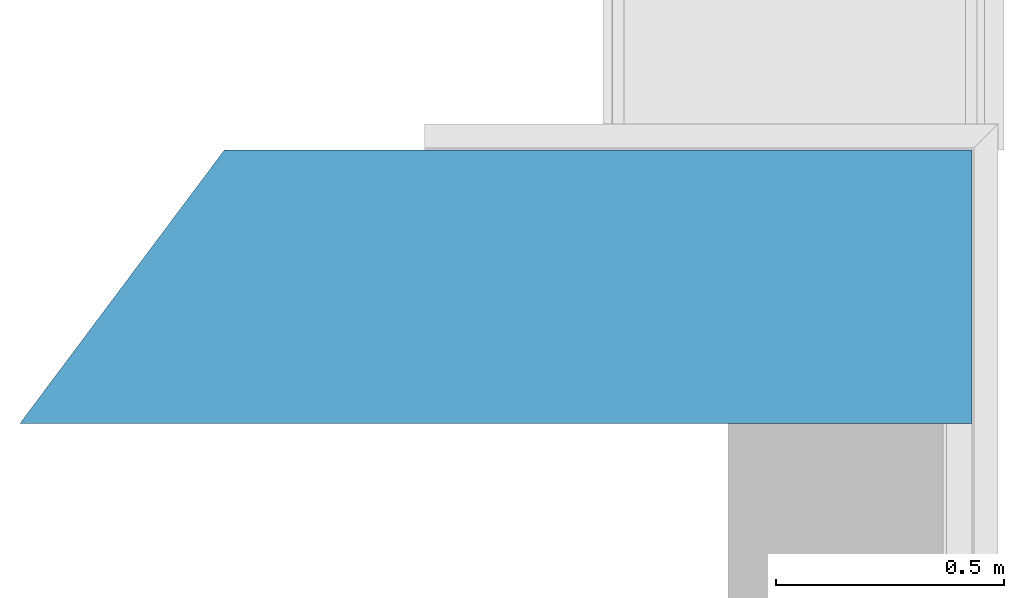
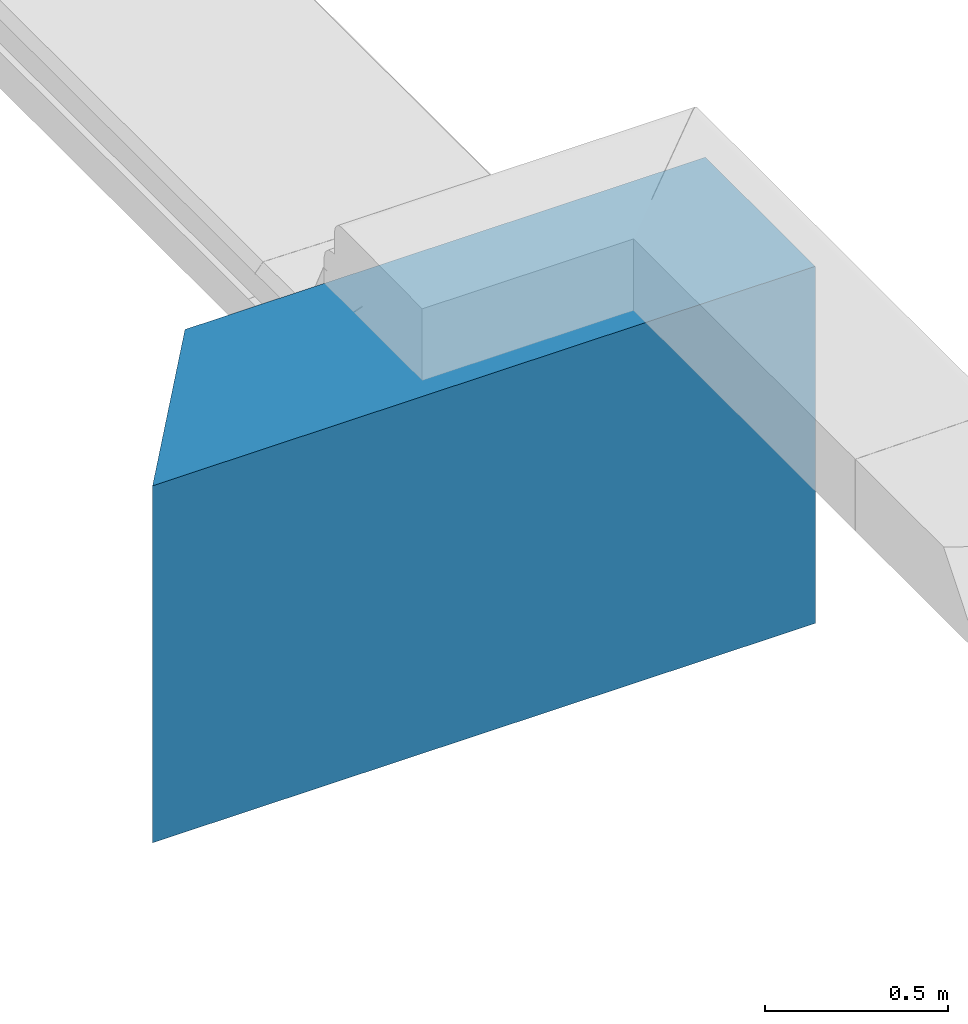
# One storey, incomplete: 1 wall.
"""IFC2X3 building model written with IfcOpenShell, lengths in millimetres."""

import ifcopenshell
import ifcopenshell.guid

model = None  # the IFC model being written
_history = None  # IfcOwnerHistory: only IFC2X3 demands one
_inside = {}  # id of a spatial element -> (the spatial element, [elements in it])
_under = {}  # id of a project, library or spatial element -> (it, [spatial elements below it])
_declared = {}  # id of a project -> (the project, [libraries it declares])
_typed = {}  # id of a type object -> (the type object, [elements of that type])
_made_of = {}  # id of a material, layer set ... -> (it, [elements and type objects made of it])


def new_model(schema):
    """Start an empty IFC model of exactly this schema.

    Asked for "IFC4X3", IfcOpenShell would pick the latest addendum, in which some entities
    have other attributes; the version numbers below select the first issue.
    IFC2X3 requires an IfcOwnerHistory on every rooted entity: one is made here for all.
    """
    global model, _history
    if schema == "IFC4X3":
        model = ifcopenshell.file(schema_version=(4, 3, 0, 0))
    else:
        model = ifcopenshell.file(schema=schema)
    _inside.clear()
    _under.clear()
    _declared.clear()
    _typed.clear()
    _made_of.clear()
    _history = None
    if model.schema == "IFC2X3":
        org = make("IfcOrganization", Name="unknown")
        user = make(
            "IfcPersonAndOrganization",
            ThePerson=make("IfcPerson", FamilyName="unknown"),
            TheOrganization=org,
        )
        app = make(
            "IfcApplication",
            ApplicationDeveloper=org,
            Version="unknown",
            ApplicationFullName="unknown",
            ApplicationIdentifier="unknown",
        )
        _history = make(
            "IfcOwnerHistory",
            OwningUser=user,
            OwningApplication=app,
            ChangeAction="ADDED",
            CreationDate=0,
        )
    return model


def make(cls, **values):
    """One entity of the class cls with the attributes given. An attribute that is None is left unset."""
    return model.create_entity(
        cls, **{name: value for name, value in values.items() if value is not None}
    )


def entity(cls, *values):
    """Any entity or typed value of the class cls, its attributes in the order of the schema. None: left unset."""
    e = model.create_entity(cls)
    for i, value in enumerate(values):
        if value is not None:
            e[i] = value
    return e


def rooted(cls, **values):
    """An entity with a GlobalId (a new one), such as an element, a storey or a relation."""
    return make(cls, GlobalId=ifcopenshell.guid.new(), OwnerHistory=_history, **values)


def si_unit(unit_type, name, prefix=None):
    """IfcSIUnit, for example si_unit("LENGTHUNIT", "METRE", prefix="MILLI")."""
    return make("IfcSIUnit", UnitType=unit_type, Prefix=prefix, Name=name)


def converted_unit(unit_type, name, factor, base, dimensions=None, offset=None):
    """IfcConversionBasedUnit, such as the inch: factor (a typed value) times the base unit."""
    return make(
        "IfcConversionBasedUnit"
        if offset is None
        else "IfcConversionBasedUnitWithOffset",
        ConversionOffset=offset,
        Dimensions=None
        if dimensions is None
        else entity("IfcDimensionalExponents", *dimensions),
        UnitType=unit_type,
        Name=name,
        ConversionFactor=make(
            "IfcMeasureWithUnit", ValueComponent=factor, UnitComponent=base
        ),
    )


def derived_unit(unit_type, elements):
    """IfcDerivedUnit: a product of units, each with its exponent."""
    return make(
        "IfcDerivedUnit",
        Elements=[
            make("IfcDerivedUnitElement", Unit=unit, Exponent=power)
            for unit, power in elements
        ],
        UnitType=unit_type,
    )


def assignment(units):
    """IfcUnitAssignment: the units of a project."""
    return None if units is None else make("IfcUnitAssignment", Units=units)


def point(xyz):
    """IfcCartesianPoint."""
    return None if xyz is None else make("IfcCartesianPoint", Coordinates=xyz)


def direction(xyz):
    """IfcDirection."""
    return None if xyz is None else make("IfcDirection", DirectionRatios=xyz)


def frame(location, z_axis=None, x_axis=None):
    """IfcAxis2Placement3D, a coordinate frame: its origin and axes. An axis left out is left unset."""
    return make(
        "IfcAxis2Placement3D",
        Location=point(location),
        Axis=direction(z_axis),
        RefDirection=direction(x_axis),
    )


def origin():
    """The frame at (0, 0, 0) with its axes left unset."""
    return frame((0.0, 0.0, 0.0))


def place(relative_to, where):
    """IfcLocalPlacement: puts the frame where relative to a parent placement (None: the world)."""
    return make(
        "IfcLocalPlacement", PlacementRelTo=relative_to, RelativePlacement=where
    )


def context(
    kind, dimensions, precision=None, world=None, true_north=None, identifier=None
):
    """IfcGeometricRepresentationContext, for example the 3D "Model" context."""
    return make(
        "IfcGeometricRepresentationContext",
        ContextIdentifier=identifier,
        ContextType=kind,
        CoordinateSpaceDimension=dimensions,
        Precision=precision,
        WorldCoordinateSystem=world,
        TrueNorth=true_north,
    )


def subcontext(parent, identifier, kind, view, scale=None):
    """IfcGeometricRepresentationSubContext, for example "Body" below "Model"."""
    return make(
        "IfcGeometricRepresentationSubContext",
        ContextIdentifier=identifier,
        ContextType=kind,
        ParentContext=parent,
        TargetScale=scale,
        TargetView=view,
    )


def project(units=None, contexts=None):
    """IfcProject with its units and contexts."""
    return rooted(
        "IfcProject",
        Name="project",
        RepresentationContexts=contexts,
        UnitsInContext=assignment(units),
    )


def spatial(cls, under=None, at=None, **own):
    """A site, building, storey or space (cls), placed at a placement, below another one or the project."""
    s = rooted(cls, ObjectPlacement=at, **own)
    if under is not None:
        _under.setdefault(under.id(), (under, []))[1].append(s)
    return s


def polyline(points):
    """IfcPolyline through the points."""
    return make("IfcPolyline", Points=[point(p) for p in points])


def outline(outer, holes=None, kind="AREA"):
    """IfcArbitraryClosedProfileDef: a profile drawn as a closed curve; with holes, ...WithVoids."""
    if holes is None:
        return make("IfcArbitraryClosedProfileDef", ProfileType=kind, OuterCurve=outer)
    return make(
        "IfcArbitraryProfileDefWithVoids",
        ProfileType=kind,
        OuterCurve=outer,
        InnerCurves=holes,
    )


def extrude(swept, where, along, depth):
    """IfcExtrudedAreaSolid: the profile swept, set in the frame where, extruded along a direction by depth."""
    return make(
        "IfcExtrudedAreaSolid",
        SweptArea=swept,
        Position=where,
        ExtrudedDirection=direction(along),
        Depth=depth,
    )


def shape(context_of_items, identifier, shape_type, items):
    """IfcShapeRepresentation: the items that make up one representation, for example the "Body"."""
    return make(
        "IfcShapeRepresentation",
        ContextOfItems=context_of_items,
        RepresentationIdentifier=identifier,
        RepresentationType=shape_type,
        Items=items,
    )


def material(Name=None, Category=None):
    """IfcMaterial."""
    return make("IfcMaterial", Name=Name, Category=Category)


def layer(
    of_material, thickness, ventilated=None, Name=None, Category=None, Priority=None
):
    """IfcMaterialLayer: one layer of a wall or slab, of a material (None: an air gap)."""
    return make(
        "IfcMaterialLayer",
        Material=of_material,
        LayerThickness=thickness,
        IsVentilated=ventilated,
        Name=Name,
        Category=Category,
        Priority=Priority,
    )


def layer_set(layers, Name=None):
    """IfcMaterialLayerSet."""
    return make("IfcMaterialLayerSet", MaterialLayers=layers, LayerSetName=Name)


def layer_usage(for_layer_set, set_direction, sense, offset, extent=None):
    """IfcMaterialLayerSetUsage: how a layer set lies in its element."""
    return make(
        "IfcMaterialLayerSetUsage",
        ForLayerSet=for_layer_set,
        LayerSetDirection=set_direction,
        DirectionSense=sense,
        OffsetFromReferenceLine=offset,
        ReferenceExtent=extent,
    )


def made_of(thing, what):
    """Note that an element or type object is made of a material, layer set ...; save() writes the relation."""
    if what is not None:
        _made_of.setdefault(what.id(), (what, []))[1].append(thing)
    return thing


def type_object(cls, material=None, **own):
    """A type object (cls), such as IfcWallType, which elements share."""
    return made_of(rooted(cls, **own), material)


def element(
    cls,
    number,
    at=None,
    inside=None,
    cuts=None,
    type_object=None,
    material=None,
    context=None,
    identifier="Body",
    shape_type=None,
    held_by="IfcProductDefinitionShape",
    body=None,
    shapes=None,
    **own,
):
    """One element of the class cls, such as IfcWall. Its Tag is "e" and its number.

    at: its placement. inside: the storey or other place that contains it. cuts: it is an
    opening in that element (IfcRelVoidsElement). A single representation is given by context,
    identifier, shape_type and body (its items); several are given by shapes. held_by: the class
    of the entity that holds the representations. save() writes the other relations.
    """
    e = rooted(cls, Tag="e%d" % number, ObjectPlacement=at, **own)
    if body is not None:
        shapes = [shape(context, identifier, shape_type, body)]
    if shapes is not None:
        e.Representation = make(held_by, Representations=shapes)
    if inside is not None:
        _inside.setdefault(inside.id(), (inside, []))[1].append(e)
    if cuts is not None:
        rooted(
            "IfcRelVoidsElement", RelatingBuildingElement=cuts, RelatedOpeningElement=e
        )
    if type_object is not None:
        _typed.setdefault(type_object.id(), (type_object, []))[1].append(e)
    return made_of(e, material)


def aggregate(whole, parts):
    """IfcRelAggregates: a whole, such as a stair, and the parts it consists of."""
    return rooted("IfcRelAggregates", RelatingObject=whole, RelatedObjects=parts)


def save(model, path):
    """Write the relations noted so far, then the file.

    IfcRelAggregates (storeys below a building ...), IfcRelContainedInSpatialStructure (elements
    in a storey), IfcRelDefinesByType, IfcRelAssociatesMaterial and IfcRelDeclares: one each for
    every whole, place, type object, material and project.
    """
    for whole, parts in _under.values():
        aggregate(whole, parts)
    for where, things in _inside.values():
        rooted(
            "IfcRelContainedInSpatialStructure",
            RelatedElements=things,
            RelatingStructure=where,
        )
    for kind, things in _typed.values():
        rooted("IfcRelDefinesByType", RelatedObjects=things, RelatingType=kind)
    for what, things in _made_of.values():
        rooted("IfcRelAssociatesMaterial", RelatedObjects=things, RelatingMaterial=what)
    for by, libraries in _declared.values():
        rooted("IfcRelDeclares", RelatingContext=by, RelatedDefinitions=libraries)
    model.write(path)


model = new_model("IFC2X3")

# Units and contexts
model_context = context("Model", 3, precision=0.01, world=origin(), true_north=direction((6.123031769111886e-17, 1.0)))
body_context = subcontext(model_context, "Body", "Model", "MODEL_VIEW")
ifc_project = project(units=[si_unit("LENGTHUNIT", "METRE", prefix="MILLI"), si_unit("AREAUNIT", "SQUARE_METRE"), si_unit("VOLUMEUNIT", "CUBIC_METRE"), converted_unit("PLANEANGLEUNIT", "DEGREE", entity("IfcPlaneAngleMeasure", 0.017453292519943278), si_unit("PLANEANGLEUNIT", "RADIAN"), dimensions=[0, 0, 0, 0, 0, 0, 0]), si_unit("MASSUNIT", "GRAM", prefix="KILO"), derived_unit("MASSDENSITYUNIT", [(si_unit("MASSUNIT", "GRAM", prefix="KILO"), 1), (si_unit("LENGTHUNIT", "METRE"), -3)]), derived_unit("IONCONCENTRATIONUNIT", [(si_unit("MASSUNIT", "GRAM", prefix="KILO"), 1), (si_unit("LENGTHUNIT", "METRE"), -3)]), derived_unit("MOMENTOFINERTIAUNIT", [(si_unit("LENGTHUNIT", "METRE"), 4)]), si_unit("TIMEUNIT", "SECOND"), si_unit("FREQUENCYUNIT", "HERTZ"), si_unit("THERMODYNAMICTEMPERATUREUNIT", "DEGREE_CELSIUS"), derived_unit("THERMALTRANSMITTANCEUNIT", [(si_unit("MASSUNIT", "GRAM", prefix="KILO"), 1), (si_unit("THERMODYNAMICTEMPERATUREUNIT", "KELVIN"), -1), (si_unit("TIMEUNIT", "SECOND"), -3)]), derived_unit("THERMALCONDUCTANCEUNIT", [(si_unit("MASSUNIT", "GRAM", prefix="KILO"), 1), (si_unit("THERMODYNAMICTEMPERATUREUNIT", "KELVIN"), -1), (si_unit("TIMEUNIT", "SECOND"), -3), (si_unit("LENGTHUNIT", "METRE"), 1)]), derived_unit("VOLUMETRICFLOWRATEUNIT", [(si_unit("LENGTHUNIT", "METRE", prefix="DECI"), 3), (si_unit("TIMEUNIT", "SECOND"), -1)]), derived_unit("MASSFLOWRATEUNIT", [(si_unit("MASSUNIT", "GRAM", prefix="KILO"), 1), (si_unit("TIMEUNIT", "SECOND"), -1)]), derived_unit("ROTATIONALFREQUENCYUNIT", [(si_unit("TIMEUNIT", "SECOND"), -1)]), si_unit("ELECTRICCURRENTUNIT", "AMPERE"), si_unit("ELECTRICVOLTAGEUNIT", "VOLT"), si_unit("POWERUNIT", "WATT"), si_unit("FORCEUNIT", "NEWTON", prefix="KILO"), si_unit("ILLUMINANCEUNIT", "LUX"), si_unit("LUMINOUSFLUXUNIT", "LUMEN"), si_unit("LUMINOUSINTENSITYUNIT", "CANDELA"), si_unit("ENERGYUNIT", "JOULE"), derived_unit("USERDEFINED", [(si_unit("MASSUNIT", "GRAM", prefix="KILO"), -1), (si_unit("LENGTHUNIT", "METRE"), -2), (si_unit("TIMEUNIT", "SECOND"), 3), (si_unit("LUMINOUSFLUXUNIT", "LUMEN"), 1)]), derived_unit("USERDEFINED", [(si_unit("MASSUNIT", "GRAM", prefix="KILO"), 1), (si_unit("TIMEUNIT", "SECOND"), -3), (si_unit("LENGTHUNIT", "METRE"), 3), (si_unit("ELECTRICCURRENTUNIT", "AMPERE"), -2)]), derived_unit("SOUNDPOWERUNIT", [(si_unit("MASSUNIT", "GRAM", prefix="KILO"), 1), (si_unit("TIMEUNIT", "SECOND"), -3), (si_unit("LENGTHUNIT", "METRE"), 2)]), derived_unit("SOUNDPRESSUREUNIT", [(si_unit("MASSUNIT", "GRAM", prefix="KILO"), 1), (si_unit("LENGTHUNIT", "METRE"), -1), (si_unit("TIMEUNIT", "SECOND"), -2)]), derived_unit("LINEARVELOCITYUNIT", [(si_unit("LENGTHUNIT", "METRE"), 1), (si_unit("TIMEUNIT", "SECOND"), -1)]), si_unit("PRESSUREUNIT", "PASCAL"), derived_unit("USERDEFINED", [(si_unit("MASSUNIT", "GRAM", prefix="KILO"), 1), (si_unit("LENGTHUNIT", "METRE"), -2), (si_unit("TIMEUNIT", "SECOND"), -2)]), derived_unit("LINEARFORCEUNIT", [(si_unit("MASSUNIT", "GRAM", prefix="KILO"), 1), (si_unit("TIMEUNIT", "SECOND"), -2)]), derived_unit("PLANARFORCEUNIT", [(si_unit("MASSUNIT", "GRAM", prefix="KILO"), 1), (si_unit("LENGTHUNIT", "METRE"), -1), (si_unit("TIMEUNIT", "SECOND"), -2)]), derived_unit("SPECIFICHEATCAPACITYUNIT", [(si_unit("THERMODYNAMICTEMPERATUREUNIT", "KELVIN"), -1), (si_unit("LENGTHUNIT", "METRE"), 2), (si_unit("TIMEUNIT", "SECOND"), -2)]), derived_unit("HEATFLUXDENSITYUNIT", [(si_unit("MASSUNIT", "GRAM", prefix="KILO"), 1), (si_unit("TIMEUNIT", "SECOND"), -3)]), derived_unit("HEATINGVALUEUNIT", [(si_unit("LENGTHUNIT", "METRE"), 2), (si_unit("TIMEUNIT", "SECOND"), -2)]), derived_unit("VAPORPERMEABILITYUNIT", [(si_unit("LENGTHUNIT", "METRE"), -1), (si_unit("TIMEUNIT", "SECOND"), 1)]), derived_unit("DYNAMICVISCOSITYUNIT", [(si_unit("MASSUNIT", "GRAM", prefix="KILO"), 1), (si_unit("TIMEUNIT", "SECOND"), -1), (si_unit("LENGTHUNIT", "METRE"), -1)]), derived_unit("THERMALEXPANSIONCOEFFICIENTUNIT", [(si_unit("THERMODYNAMICTEMPERATUREUNIT", "KELVIN"), -1)]), derived_unit("MODULUSOFELASTICITYUNIT", [(si_unit("MASSUNIT", "GRAM", prefix="KILO"), 1), (si_unit("LENGTHUNIT", "METRE"), -1), (si_unit("TIMEUNIT", "SECOND"), -2)]), derived_unit("ISOTHERMALMOISTURECAPACITYUNIT", [(si_unit("MASSUNIT", "GRAM", prefix="KILO"), -1), (si_unit("LENGTHUNIT", "METRE"), 3)]), derived_unit("MOISTUREDIFFUSIVITYUNIT", [(si_unit("TIMEUNIT", "SECOND"), -1), (si_unit("LENGTHUNIT", "METRE"), 2)]), derived_unit("MASSPERLENGTHUNIT", [(si_unit("MASSUNIT", "GRAM", prefix="KILO"), 1), (si_unit("LENGTHUNIT", "METRE"), -1)]), derived_unit("THERMALRESISTANCEUNIT", [(si_unit("MASSUNIT", "GRAM", prefix="KILO"), -1), (si_unit("TIMEUNIT", "SECOND"), 3), (si_unit("THERMODYNAMICTEMPERATUREUNIT", "KELVIN"), 1)]), derived_unit("ACCELERATIONUNIT", [(si_unit("LENGTHUNIT", "METRE"), 1), (si_unit("TIMEUNIT", "SECOND"), -2)]), derived_unit("ANGULARVELOCITYUNIT", [(si_unit("TIMEUNIT", "SECOND"), -1), (si_unit("PLANEANGLEUNIT", "RADIAN"), 1)]), derived_unit("LINEARSTIFFNESSUNIT", [(si_unit("MASSUNIT", "GRAM", prefix="KILO"), 1), (si_unit("TIMEUNIT", "SECOND"), -2)]), derived_unit("WARPINGCONSTANTUNIT", [(si_unit("LENGTHUNIT", "METRE"), 6)]), derived_unit("LINEARMOMENTUNIT", [(si_unit("MASSUNIT", "GRAM", prefix="KILO"), 1), (si_unit("LENGTHUNIT", "METRE"), 1), (si_unit("TIMEUNIT", "SECOND"), -2)]), derived_unit("TORQUEUNIT", [(si_unit("MASSUNIT", "GRAM", prefix="KILO"), 1), (si_unit("LENGTHUNIT", "METRE"), 2), (si_unit("TIMEUNIT", "SECOND"), -2)])], contexts=[model_context])

# Site, building, storey
site_placement = place(None, origin())
site = spatial("IfcSite", under=ifc_project, at=site_placement, Name="Default", CompositionType="ELEMENT")
building_placement = place(site_placement, origin())
building = spatial("IfcBuilding", under=site, at=building_placement, Name="Eesti Rahvusraamatukogu hoone renoveerimise projekteerimistööd", CompositionType="ELEMENT")
storey_placement = place(building_placement, frame((0.0, 0.0, 6100.0)))
storey = spatial("IfcBuildingStorey", under=building, at=storey_placement, Name="E-korpus 3. korrus", CompositionType="ELEMENT", Elevation=6100.0)

# Wall
ifc_material = material(Name="ol. olev materjal")
ifc_layer = layer(ifc_material, 600.0)
ifc_layer_set = layer_set([ifc_layer], Name="Basic Wall:ol. olev - 600mm")
ifc_layer_usage = layer_usage(ifc_layer_set, "AXIS2", "NEGATIVE", 300.0)
wall_type = type_object("IfcWallType", Name="Basic Wall:ol. olev - 600mm", PredefinedType="STANDARD", material=ifc_layer_set)
wall_placement = place(storey_placement, frame((-48580.0, 12515.0, 0.0), z_axis=(0.0, 0.0, 1.0), x_axis=(-1.0, 0.0, 0.0)))
element("IfcWallStandardCase", 1, at=wall_placement, inside=storey, type_object=wall_type, material=ifc_layer_usage, Name="Basic Wall:ol. olev - 600mm", ObjectType="Basic Wall:ol. olev - 600mm", context=body_context, shape_type="SweptSolid", body=[
    extrude(outline(polyline([(1639.8146096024, -300.0), (2088.4690576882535, 300.0), (1339.2756155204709, 300.0), (0.0, 300.0), (0.0, -300.0), (1639.8146096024, -300.0)])), origin(), (0.0, 0.0, 1.0), 1189.4810303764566),
])

save(model, "model.ifc")
